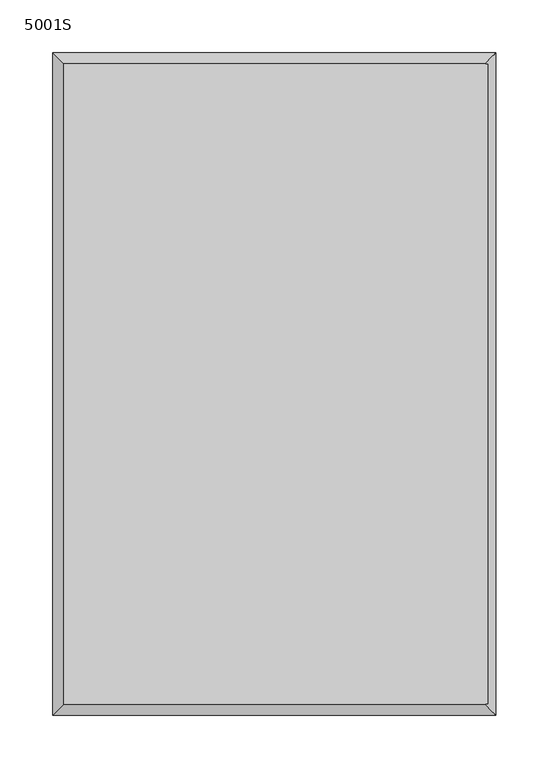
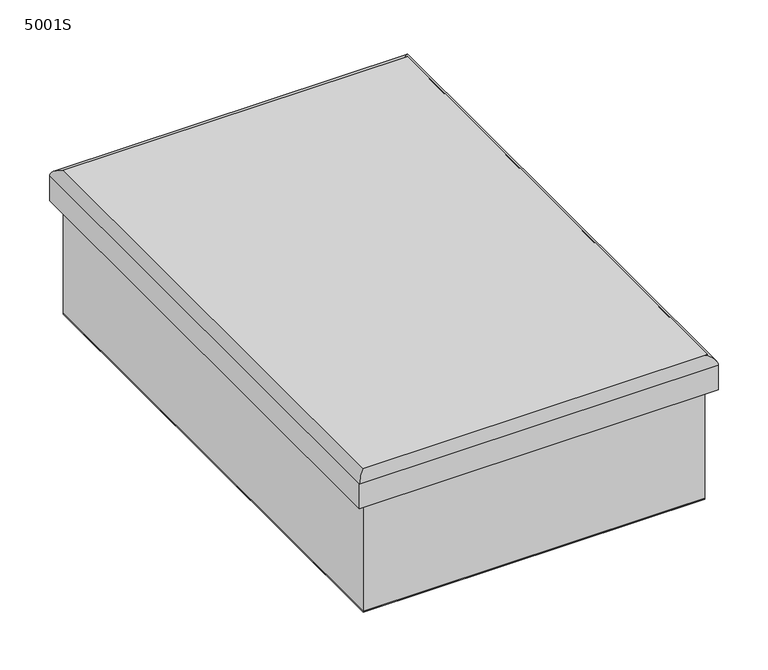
"""IFC4 building model written with IfcOpenShell, lengths in millimetres: alarm geometry, 5001S_Control Panel and Indicating Equipment : 5001S."""

from ifc_helpers import new_model, si_unit, frame, origin, origin_with_axes, place, context, project, spatial, polyline, circle_curve, ellipse_curve, outline, extrude, source, transform, mapped, element, save
from ifc_brep_helpers import plane_surface, cylinder_surface, advanced_brep


def alarm_5001s_ca98def9(model_context):
    return source(origin(), model_context, "Body", "SolidModel", [
        advanced_brep(
        [(199.4448932, 302.5, 177.0), (202.0, 302.5, 177.0), (202.0, 302.5, 176.6520369), (-189.0, 302.5, 137.0), (-189.0, -302.5, 137.0), (-189.0, -302.5, 167.0), (-189.0, -292.5, 167.0), (-189.0, 292.5, 167.0), (-189.0, 302.5, 167.0), (202.0, -302.5, 177.0), (199.4448932, -302.5, 177.0), (202.0, -302.5, 176.6520369), (209.0, -312.5, 167.4448932), (209.0, -312.5, 137.0), (209.0, 312.5, 137.0), (209.0, 312.5, 167.4448932), (199.4448932, 302.9448932, 177.0), (199.4448932, -302.9448932, 177.0), (-209.0, 312.5, 137.0), (-209.0, 312.5, 167.4448932), (-199.4448932, 302.9448932, 177.0), (-199.0, 302.5, 167.0), (-199.0, 302.5, 137.0), (-209.0, -312.5, 137.0), (-209.0, -312.5, 167.4448932), (-199.4448932, -302.9448932, 177.0), (-199.0, -302.5, 167.0), (-199.0, -302.5, 137.0)],
        [
            (0, 1),
            (1, 2),
            (2, 0, circle_curve(frame((199.4448932, 302.5, 167.4448932), z_axis=(0.0, -1.0, 0.0), x_axis=(-1.0, 0.0, 0.0)), 9.5551068)),
            (3, 4),
            (4, 5),
            (5, 6),
            (6, 7),
            (7, 8),
            (8, 3),
            (9, 10),
            (10, 11, circle_curve(frame((199.4448932, -302.5, 167.4448932), z_axis=(0.0, 1.0, 0.0), x_axis=(-1.0, 0.0, 0.0)), 9.5551068)),
            (11, 9),
            (1, 9),
            (11, 2),
            (12, 13),
            (13, 14),
            (14, 15),
            (15, 12),
            (15, 16, ellipse_curve(frame((199.4448932, 302.9448932, 167.4448932), z_axis=(0.7071067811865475, -0.7071067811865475, 0.0), x_axis=(-0.7071067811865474, -0.7071067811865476, 0.0)), 13.5129616, 9.5551068)),
            (16, 0),
            (10, 17),
            (17, 12, ellipse_curve(frame((199.4448932, -302.9448932, 167.4448932), z_axis=(0.7071067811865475, 0.7071067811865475, 0.0), x_axis=(0.7071067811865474, -0.7071067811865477, 0.0)), 13.5129616, 9.5551068)),
            (14, 18),
            (18, 19),
            (19, 15),
            (19, 20, ellipse_curve(frame((-199.4448932, 302.9448932, 167.4448932), z_axis=(0.7071067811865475, 0.7071067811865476, 0.0), x_axis=(0.7071067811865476, -0.7071067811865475, 0.0)), 13.5129616, 9.5551068)),
            (20, 16),
            (21, 22),
            (22, 3),
            (8, 21),
            (18, 23),
            (23, 24),
            (24, 19),
            (24, 25, ellipse_curve(frame((-199.4448932, -302.9448932, 167.4448932), z_axis=(-0.7071067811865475, 0.7071067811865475, 0.0), x_axis=(0.7071067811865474, 0.7071067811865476, 0.0)), 13.5129616, 9.5551068)),
            (25, 20),
            (21, 26),
            (26, 27),
            (27, 22),
            (13, 23),
            (27, 4),
            (12, 24),
            (17, 25),
            (5, 26),
        ],
        [
            plane_surface(frame((202.0, 302.5, 177.0), z_axis=(0.0, 1.0, 0.0), x_axis=(0.0, 0.0, -1.0))),
            plane_surface(frame((-189.0, 302.5, 177.0), z_axis=(-1.0, 0.0, 0.0), x_axis=(0.0, 0.0, -1.0))),
            plane_surface(frame((-189.0, -302.5, 177.0), z_axis=(0.0, -1.0, 0.0), x_axis=(0.0, 0.0, -1.0))),
            plane_surface(frame((202.0, -302.5, 177.0), z_axis=(1.0, 0.0, 0.0), x_axis=(0.0, 0.0, -1.0))),
            plane_surface(frame((209.0, -312.5, 137.0), z_axis=(1.0, 0.0, 0.0), x_axis=(0.0, 1.0, 0.0))),
            cylinder_surface(frame((199.4448932, -302.5, 167.4448932), z_axis=(0.0, -1.0, 0.0), x_axis=(-1.0, 0.0, 0.0)), 9.5551068),
            plane_surface(frame((209.0, 312.5, 137.0), z_axis=(0.0, 1.0, 0.0), x_axis=(-1.0, 0.0, 0.0))),
            cylinder_surface(frame((199.0, 302.9448932, 167.4448932), z_axis=(1.0, 0.0, 0.0), x_axis=(0.0, -1.0, 0.0)), 9.5551068),
            plane_surface(frame((199.0, 302.5, 167.0), z_axis=(0.0, -1.0, 0.0), x_axis=(-1.0, 0.0, 0.0))),
            plane_surface(frame((-209.0, 312.5, 137.0), z_axis=(-1.0, 0.0, 0.0), x_axis=(0.0, -1.0, 0.0))),
            cylinder_surface(frame((-199.4448932, 302.5, 167.4448932), z_axis=(0.0, 1.0, 0.0), x_axis=(1.0, 0.0, 0.0)), 9.5551068),
            plane_surface(frame((-199.0, 302.5, 167.0), z_axis=(1.0, 0.0, 0.0), x_axis=(0.0, -1.0, 0.0))),
            plane_surface(frame((-199.0, -302.5, 137.0), z_axis=(0.0, 0.0, -1.0), x_axis=(1.0, 0.0, 0.0))),
            plane_surface(frame((-209.0, -312.5, 137.0), z_axis=(0.0, -1.0, 0.0), x_axis=(1.0, 0.0, 0.0))),
            cylinder_surface(frame((-199.0, -302.9448932, 167.4448932), z_axis=(-1.0, 0.0, 0.0), x_axis=(0.0, 1.0, 0.0)), 9.5551068),
            plane_surface(frame((-199.4448932, -302.9448932, 177.0), z_axis=(0.0, 0.0, 1.0), x_axis=(1.0, 0.0, 0.0))),
            plane_surface(frame((-189.0, -292.5, 167.0), z_axis=(0.0, 0.0, -1.0), x_axis=(1.0, 0.0, 0.0))),
            plane_surface(frame((-199.0, -302.5, 167.0), z_axis=(0.0, 1.0, 0.0), x_axis=(1.0, 0.0, 0.0))),
        ],
        [
            (0, [[1, 2, 3]]),
            (1, [[4, 5, 6, 7, 8, 9]]),
            (2, [[10, 11, 12]]),
            (3, [[13, -12, 14, -2]]),
            (4, [[15, 16, 17, 18]]),
            (5, [[-18, 19, 20, -3, -14, -11, 21, 22]]),
            (6, [[-17, 23, 24, 25]]),
            (7, [[-19, -25, 26, 27]]),
            (8, [[28, 29, -9, 30]]),
            (9, [[-24, 31, 32, 33]]),
            (10, [[-26, -33, 34, 35]]),
            (11, [[-28, 36, 37, 38]]),
            (12, [[-16, 39, -31, -23], [-38, 40, -4, -29]]),
            (13, [[-15, 41, -32, -39]]),
            (14, [[-22, 42, -34, -41]]),
            (15, [[-27, -35, -42, -21, -10, -13, -1, -20]]),
            (16, [[-36, -30, -8, -7, -6, 43]]),
            (17, [[-37, -43, -5, -40]]),
        ],
    ),
        extrude(outline(polyline([(199.0, 302.5), (199.0, -302.5), (-199.0, -302.5), (-199.0, 302.5), (199.0, 302.5)])), origin_with_axes(), (0.0, 0.0, 1.0), 1.0),
        extrude(outline(polyline([(199.0, 302.5), (199.0, -302.5), (-199.0, -302.5), (-199.0, 302.5), (199.0, 302.5)]), holes=[polyline([(-189.0, 292.5), (-189.0, -292.5), (189.0, -292.5), (189.0, 292.5), (-189.0, 292.5)])]), origin_with_axes(), (0.0, 0.0, 1.0), 167.0),
    ])


if __name__ == "__main__":
    model = new_model("IFC4")
    model_context = context("Model", 3, world=origin())
    ifc_project = project(units=[si_unit("LENGTHUNIT", "METRE", prefix="MILLI")], contexts=[model_context])
    site = spatial("IfcSite", under=ifc_project)
    building = spatial("IfcBuilding", under=site)
    placement = place(None, origin())
    alarm_5001s_shape = alarm_5001s_ca98def9(model_context)
    element("IfcAlarm", 1, ObjectType="5001S_Control Panel and Indicating Equipment : 5001S", at=placement, inside=building, context=model_context, shape_type="MappedRepresentation", body=[
        mapped(alarm_5001s_shape, transform((0.0, 0.0, 0.0), x_axis=(1.0, 0.0, 0.0), y_axis=(0.0, 1.0, 0.0), z_axis=(0.0, 0.0, 1.0))),
    ])
    save(model, "model.ifc")
